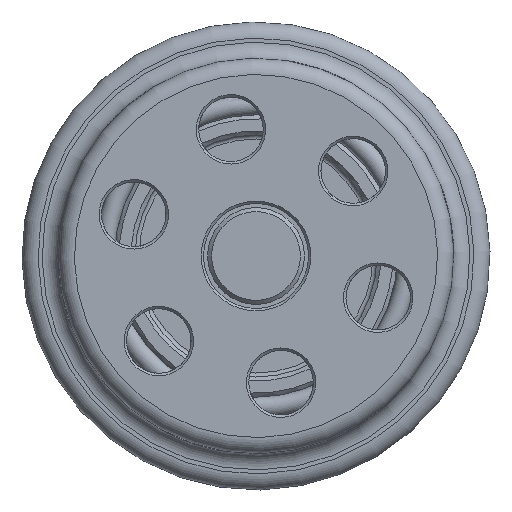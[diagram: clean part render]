
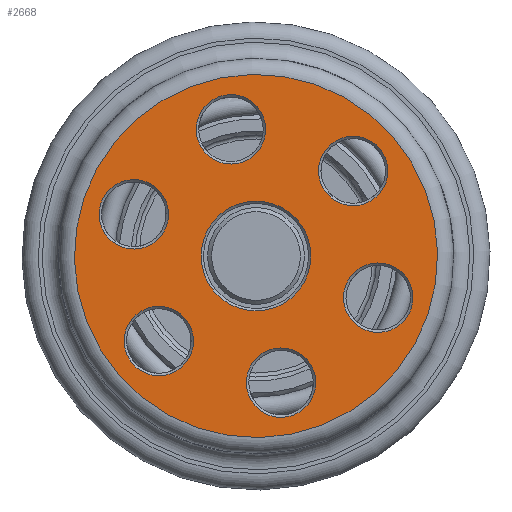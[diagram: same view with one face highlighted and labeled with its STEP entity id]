
A CAD part, left-side view. The second image highlights one B-rep face of the part: STEP entity #2668.
In plain terms, the highlighted planar face has unit normal (-1, 0, 0).
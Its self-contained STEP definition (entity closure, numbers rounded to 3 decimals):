
#531=FACE_BOUND('',#840,.T.);
#532=FACE_BOUND('',#841,.T.);
#533=FACE_BOUND('',#842,.T.);
#534=FACE_BOUND('',#843,.T.);
#535=FACE_BOUND('',#844,.T.);
#536=FACE_BOUND('',#845,.T.);
#537=FACE_BOUND('',#846,.T.);
#674=FACE_OUTER_BOUND('',#839,.T.);
#839=EDGE_LOOP('',(#2417));
#840=EDGE_LOOP('',(#2418));
#841=EDGE_LOOP('',(#2419));
#842=EDGE_LOOP('',(#2420));
#843=EDGE_LOOP('',(#2421));
#844=EDGE_LOOP('',(#2422));
#845=EDGE_LOOP('',(#2423));
#846=EDGE_LOOP('',(#2424));
#1032=CIRCLE('',#2983,4.3);
#1036=CIRCLE('',#2989,4.3);
#1040=CIRCLE('',#2995,4.3);
#1044=CIRCLE('',#3001,4.3);
#1047=CIRCLE('',#3006,4.3);
#1050=CIRCLE('',#3011,4.3);
#1053=CIRCLE('',#3017,6.8);
#1056=CIRCLE('',#3022,22.5);
#1275=VERTEX_POINT('',#6544);
#1278=VERTEX_POINT('',#6555);
#1281=VERTEX_POINT('',#6566);
#1284=VERTEX_POINT('',#6577);
#1286=VERTEX_POINT('',#6586);
#1288=VERTEX_POINT('',#6595);
#1292=VERTEX_POINT('',#6607);
#1294=VERTEX_POINT('',#6616);
#1638=EDGE_CURVE('',#1275,#1275,#1032,.T.);
#1644=EDGE_CURVE('',#1278,#1278,#1036,.T.);
#1650=EDGE_CURVE('',#1281,#1281,#1040,.T.);
#1656=EDGE_CURVE('',#1284,#1284,#1044,.T.);
#1661=EDGE_CURVE('',#1286,#1286,#1047,.T.);
#1666=EDGE_CURVE('',#1288,#1288,#1050,.T.);
#1671=EDGE_CURVE('',#1292,#1292,#1053,.T.);
#1675=EDGE_CURVE('',#1294,#1294,#1056,.T.);
#2417=ORIENTED_EDGE('',*,*,#1675,.F.);
#2418=ORIENTED_EDGE('',*,*,#1638,.T.);
#2419=ORIENTED_EDGE('',*,*,#1644,.T.);
#2420=ORIENTED_EDGE('',*,*,#1650,.T.);
#2421=ORIENTED_EDGE('',*,*,#1656,.T.);
#2422=ORIENTED_EDGE('',*,*,#1661,.T.);
#2423=ORIENTED_EDGE('',*,*,#1666,.T.);
#2424=ORIENTED_EDGE('',*,*,#1671,.F.);
#2529=PLANE('',#3021);
#2668=ADVANCED_FACE('',(#674,#531,#532,#533,#534,#535,#536,#537),#2529,
 .T.);
#2983=AXIS2_PLACEMENT_3D('',#6546,#3725,#3726);
#2989=AXIS2_PLACEMENT_3D('',#6557,#3739,#3740);
#2995=AXIS2_PLACEMENT_3D('',#6568,#3753,#3754);
#3001=AXIS2_PLACEMENT_3D('',#6579,#3767,#3768);
#3006=AXIS2_PLACEMENT_3D('',#6588,#3779,#3780);
#3011=AXIS2_PLACEMENT_3D('',#6597,#3791,#3792);
#3017=AXIS2_PLACEMENT_3D('',#6609,#3805,#3806);
#3021=AXIS2_PLACEMENT_3D('',#6615,#3814,#3815);
#3022=AXIS2_PLACEMENT_3D('',#6617,#3816,#3817);
#3725=DIRECTION('center_axis',(1.,0.,0.));
#3726=DIRECTION('ref_axis',(0.,-0.194,-0.981));
#3739=DIRECTION('center_axis',(1.,0.,0.));
#3740=DIRECTION('ref_axis',(0.,-0.194,-0.981));
#3753=DIRECTION('center_axis',(1.,0.,0.));
#3754=DIRECTION('ref_axis',(0.,-0.194,-0.981));
#3767=DIRECTION('center_axis',(1.,0.,0.));
#3768=DIRECTION('ref_axis',(0.,-0.194,-0.981));
#3779=DIRECTION('center_axis',(1.,0.,0.));
#3780=DIRECTION('ref_axis',(0.,-0.194,-0.981));
#3791=DIRECTION('center_axis',(1.,0.,0.));
#3792=DIRECTION('ref_axis',(0.,-0.194,-0.981));
#3805=DIRECTION('center_axis',(-1.,0.,0.));
#3806=DIRECTION('ref_axis',(0.,0.981,-0.194));
#3814=DIRECTION('center_axis',(-1.,0.,0.));
#3815=DIRECTION('ref_axis',(0.,-0.194,-0.981));
#3816=DIRECTION('center_axis',(1.,0.,0.));
#3817=DIRECTION('ref_axis',(0.,-0.981,0.194));
#6544=CARTESIAN_POINT('',(-56.,-11.208,14.754));
#6546=CARTESIAN_POINT('Origin',(-56.,-12.042,10.536));
#6555=CARTESIAN_POINT('',(-56.,-14.311,-0.942));
#6557=CARTESIAN_POINT('Origin',(-56.,-15.145,-5.16));
#6566=CARTESIAN_POINT('',(-56.,-2.269,-11.478));
#6568=CARTESIAN_POINT('Origin',(-56.,-3.103,-15.696));
#6577=CARTESIAN_POINT('',(-56.,12.876,-6.317));
#6579=CARTESIAN_POINT('Origin',(-56.,12.042,-10.536));
#6586=CARTESIAN_POINT('',(-56.,15.979,9.379));
#6588=CARTESIAN_POINT('Origin',(-56.,15.145,5.16));
#6595=CARTESIAN_POINT('',(-56.,3.937,19.914));
#6597=CARTESIAN_POINT('Origin',(-56.,3.103,15.696));
#6607=CARTESIAN_POINT('',(-56.,-6.671,1.319));
#6609=CARTESIAN_POINT('Origin',(-56.,0.,0.));
#6615=CARTESIAN_POINT('Origin',(-56.,-14.225,2.812));
#6616=CARTESIAN_POINT('',(-56.,-4.364,-22.073));
#6617=CARTESIAN_POINT('Origin',(-56.,0.,0.));
